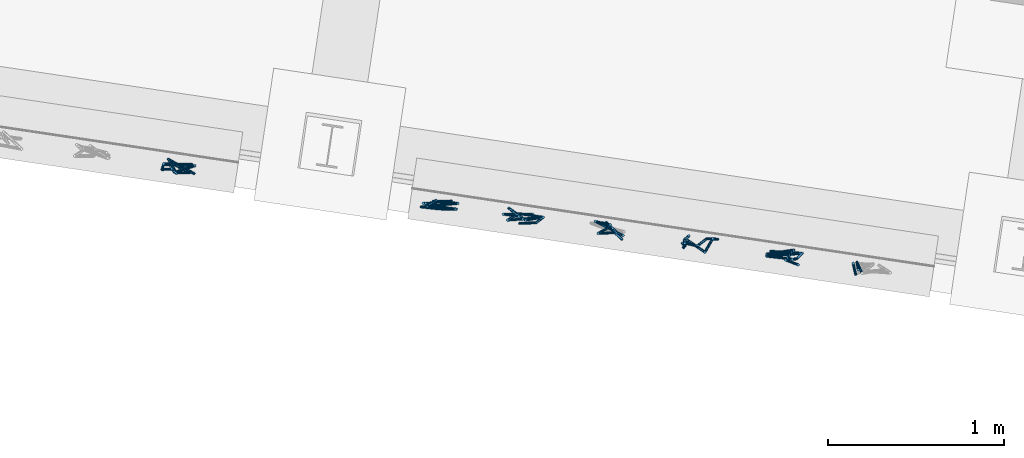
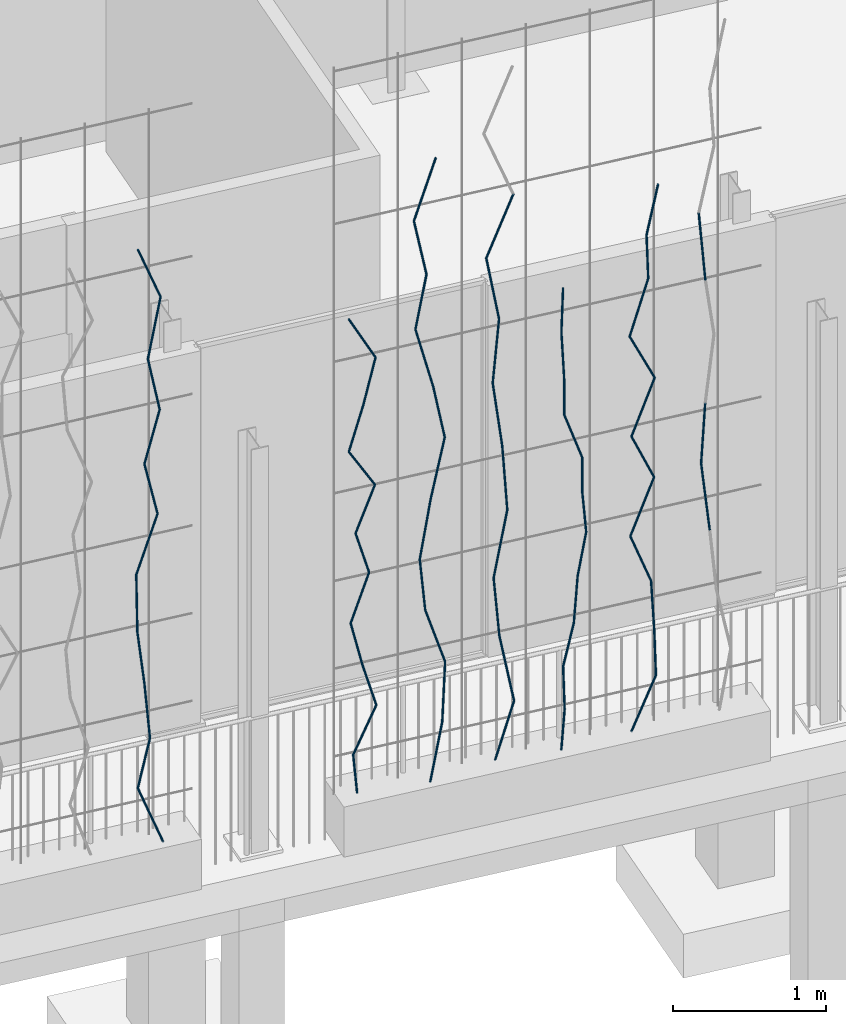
# One storey, part 122 of 143: 67 members, 1 element without a shape of its own.
"""IFC4 building model written with IfcOpenShell, lengths in metres."""

from ifc_helpers import new_model, si_unit, direction, frame, origin_with_axes, place, context, subcontext, project, spatial, circle, extrude, material, material_profile, profile_set, profile_usage, type_object, element, aggregate, save


model = new_model("IFC4")

# Units and contexts
model_context = context("Model", 3, precision=1e-05, world=origin_with_axes(), true_north=direction((0.0, 1.0)))
body_context = subcontext(model_context, "Body", "Model", "MODEL_VIEW")
ifc_project = project(units=[si_unit("VOLUMEUNIT", "CUBIC_METRE"), si_unit("LENGTHUNIT", "METRE"), si_unit("AREAUNIT", "SQUARE_METRE")], contexts=[model_context])

# Site, building, storey
site_placement = place(None, origin_with_axes())
site = spatial("IfcSite", under=ifc_project, at=site_placement, Name="Lares · Rua das Mercês · artigo 4771")
building_placement = place(site_placement, frame((15.0, 9.7, 15.8), z_axis=(0.0, 0.0, 1.0), x_axis=(0.989015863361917, -0.147809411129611, 0.0)))
building = spatial("IfcBuilding", under=site, at=building_placement, Name="Casa Sobreposta")
storey_placement = place(building_placement, origin_with_axes())
storey = spatial("IfcBuildingStorey", under=building, at=storey_placement, Name="00 · Habitação e estacionamento", Elevation=15.8)

# Assembly, members
assembly_placement = place(storey_placement, origin_with_axes())
assembly = element("IfcElementAssembly", 1, at=assembly_placement, inside=storey, Name="Fachada sul e pátio · estrutura e trepadeiras", ObjectType="LIVING_SHADE_TRELLIS", PredefinedType="USERDEFINED")
ifc_material = material(Name="Ramos de trepadeiras", Category="wood")
ifc_material_profile = material_profile(ifc_material, circle(Radius=0.0075))
ifc_profile_set = profile_set([ifc_material_profile], Name="D0.015")
ifc_profile_usage_1 = profile_usage(ifc_profile_set)
member_type = type_object("IfcMemberType", Name="D0.015 / vine_wood", PredefinedType="NOTDEFINED", material=ifc_profile_set)
member_1_placement = place(assembly_placement, frame((15.2607594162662, -1.7095147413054, 0.35), z_axis=(-0.337365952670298, 0.127105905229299, 0.932753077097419), x_axis=(0.352566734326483, 0.935786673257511, 0.0)))
member_1 = element("IfcMember", 2, at=member_1_placement, type_object=member_type, material=ifc_profile_usage_1, Name="Trepadeiras · ramo", context=body_context, shape_type="SweptSolid", body=[
    extrude(circle(Radius=0.0075), origin_with_axes(), (0.0, 0.0, 1.0), 0.463665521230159),
])
ifc_profile_usage_2 = profile_usage(ifc_profile_set)
member_2_placement = place(assembly_placement, frame((15.104334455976, -1.65058011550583, 0.782485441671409), z_axis=(0.128975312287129, -0.164258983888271, 0.977949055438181), x_axis=(-0.786516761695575, -0.617568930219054, 0.0)))
member_2 = element("IfcMember", 3, at=member_2_placement, type_object=member_type, material=ifc_profile_usage_2, Name="Trepadeiras · ramo", context=body_context, shape_type="SweptSolid", body=[
    extrude(circle(Radius=0.0075), origin_with_axes(), (0.0, 0.0, 1.0), 0.44223718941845),
])
ifc_profile_usage_3 = profile_usage(ifc_profile_set)
member_3_placement = place(assembly_placement, frame((15.1613721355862, -1.72322154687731, 1.21497088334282), z_axis=(-0.0719495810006, 0.0477886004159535, 0.996262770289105), x_axis=(0.553274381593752, 0.832999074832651, 0.0)))
member_3 = element("IfcMember", 4, at=member_3_placement, type_object=member_type, material=ifc_profile_usage_3, Name="Trepadeiras · ramo", context=body_context, shape_type="SweptSolid", body=[
    extrude(circle(Radius=0.0075), origin_with_axes(), (0.0, 0.0, 1.0), 0.4341078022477),
])
ifc_profile_usage_4 = profile_usage(ifc_profile_set)
member_4_placement = place(assembly_placement, frame((15.1301382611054, -1.70247614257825, 1.64745632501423), z_axis=(-0.123832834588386, -0.0263375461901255, 0.991953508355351), x_axis=(-0.208033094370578, 0.978121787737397, 0.0)))
member_4 = element("IfcMember", 5, at=member_4_placement, type_object=member_type, material=ifc_profile_usage_4, Name="Trepadeiras · ramo", context=body_context, shape_type="SweptSolid", body=[
    extrude(circle(Radius=0.0075), origin_with_axes(), (0.0, 0.0, 1.0), 0.435993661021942),
])
ifc_profile_usage_5 = profile_usage(ifc_profile_set)
member_5_placement = place(assembly_placement, frame((15.0761479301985, -1.71395914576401, 2.07994176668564), z_axis=(0.0132062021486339, 0.0761319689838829, 0.997010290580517), x_axis=(0.985286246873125, -0.170912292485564, 0.0)))
member_5 = element("IfcMember", 6, at=member_5_placement, type_object=member_type, material=ifc_profile_usage_5, Name="Trepadeiras · ramo", context=body_context, shape_type="SweptSolid", body=[
    extrude(circle(Radius=0.0075), origin_with_axes(), (0.0, 0.0, 1.0), 0.433782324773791),
])
ifc_profile_usage_6 = profile_usage(ifc_profile_set)
member_6_placement = place(assembly_placement, frame((15.0818765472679, -1.68093444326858, 2.51242720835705), z_axis=(0.342762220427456, 0.0461039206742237, 0.93829019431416), x_axis=(0.133306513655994, -0.991074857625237, 0.0)))
member_6 = element("IfcMember", 7, at=member_6_placement, type_object=member_type, material=ifc_profile_usage_6, Name="Trepadeiras · ramo", context=body_context, shape_type="SweptSolid", body=[
    extrude(circle(Radius=0.0075), origin_with_axes(), (0.0, 0.0, 1.0), 0.460929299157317),
])
ifc_profile_usage_7 = profile_usage(ifc_profile_set)
member_7_placement = place(assembly_placement, frame((15.2398656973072, -1.6596837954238, 2.94491265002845), z_axis=(-0.222915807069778, -0.036643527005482, 0.974148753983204), x_axis=(-0.162205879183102, 0.986756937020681, 0.0)))
member_7 = element("IfcMember", 8, at=member_7_placement, type_object=member_type, material=ifc_profile_usage_7, Name="Trepadeiras · ramo", context=body_context, shape_type="SweptSolid", body=[
    extrude(circle(Radius=0.0075), origin_with_axes(), (0.0, 0.0, 1.0), 0.443962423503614),
])
ifc_profile_usage_8 = profile_usage(ifc_profile_set)
member_8_placement = place(assembly_placement, frame((15.1408994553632, -1.67595214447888, 3.37739809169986), z_axis=(0.213066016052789, -0.0735330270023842, 0.974266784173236), x_axis=(-0.326236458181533, -0.945288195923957, 0.0)))
member_8 = element("IfcMember", 9, at=member_8_placement, type_object=member_type, material=ifc_profile_usage_8, Name="Trepadeiras · ramo", context=body_context, shape_type="SweptSolid", body=[
    extrude(circle(Radius=0.0075), origin_with_axes(), (0.0, 0.0, 1.0), 0.443908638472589),
])
ifc_profile_usage_9 = profile_usage(ifc_profile_set)
member_9_placement = place(assembly_placement, frame((15.235481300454, -1.70859409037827, 3.80988353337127), z_axis=(-0.19816638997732, -0.0243245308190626, 0.979866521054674), x_axis=(-0.1218336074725, 0.992550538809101, 0.0)))
member_9 = element("IfcMember", 10, at=member_9_placement, type_object=member_type, material=ifc_profile_usage_9, Name="Trepadeiras · ramo", context=body_context, shape_type="SweptSolid", body=[
    extrude(circle(Radius=0.0075), origin_with_axes(), (0.0, 0.0, 1.0), 0.441371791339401),
])
ifc_profile_usage_10 = profile_usage(ifc_profile_set)
member_10_placement = place(assembly_placement, frame((15.1480162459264, -1.71933025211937, 4.24236897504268), z_axis=(0.246754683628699, 0.121737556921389, 0.961401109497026), x_axis=(0.44243957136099, -0.896798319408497, 0.0)))
member_10 = element("IfcMember", 11, at=member_10_placement, type_object=member_type, material=ifc_profile_usage_10, Name="Trepadeiras · ramo", context=body_context, shape_type="SweptSolid", body=[
    extrude(circle(Radius=0.0075), origin_with_axes(), (0.0, 0.0, 1.0), 0.449849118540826),
])
ifc_profile_usage_11 = profile_usage(ifc_profile_set)
member_11_placement = place(assembly_placement, frame((15.2590186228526, -1.66456671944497, 4.67485441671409), z_axis=(-0.360268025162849, -0.0428537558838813, 0.931863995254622), x_axis=(-0.118116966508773, 0.992999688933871, 0.0)))
member_11 = element("IfcMember", 12, at=member_11_placement, type_object=member_type, material=ifc_profile_usage_11, Name="Trepadeiras · ramo", context=body_context, shape_type="SweptSolid", body=[
    extrude(circle(Radius=0.0075), origin_with_axes(), (0.0, 0.0, 1.0), 0.464107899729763),
])
ifc_profile_usage_12 = profile_usage(ifc_profile_set)
member_12_placement = place(assembly_placement, frame((16.6437823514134, -1.65744029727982, 0.35), z_axis=(-0.125335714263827, -0.117489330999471, 0.985133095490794), x_axis=(-0.683901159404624, 0.729574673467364, 0.0)))
member_12 = element("IfcMember", 13, at=member_12_placement, type_object=member_type, material=ifc_profile_usage_12, Name="Trepadeiras · ramo", context=body_context, shape_type="SweptSolid", body=[
    extrude(circle(Radius=0.0075), origin_with_axes(), (0.0, 0.0, 1.0), 0.352596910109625),
])
ifc_profile_usage_13 = profile_usage(ifc_profile_set)
member_13_placement = place(assembly_placement, frame((16.5995893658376, -1.69886667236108, 0.697354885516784), z_axis=(0.431298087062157, 0.025974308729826, 0.901835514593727), x_axis=(0.0601146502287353, -0.998191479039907, 3.62071145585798e-18)))
member_13 = element("IfcMember", 14, at=member_13_placement, type_object=member_type, material=ifc_profile_usage_13, Name="Trepadeiras · ramo", context=body_context, shape_type="SweptSolid", body=[
    extrude(circle(Radius=0.0075), origin_with_axes(), (0.0, 0.0, 1.0), 0.385164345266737),
])
ifc_profile_usage_14 = profile_usage(ifc_profile_set)
member_14_placement = place(assembly_placement, frame((16.7657100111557, -1.6888622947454, 1.04470977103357), z_axis=(-0.272189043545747, -0.00629168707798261, 0.962223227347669), x_axis=(-0.0231089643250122, 0.999732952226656, -7.66354077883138e-19)))
member_14 = element("IfcMember", 15, at=member_14_placement, type_object=member_type, material=ifc_profile_usage_14, Name="Trepadeiras · ramo", context=body_context, shape_type="SweptSolid", body=[
    extrude(circle(Radius=0.0075), origin_with_axes(), (0.0, 0.0, 1.0), 0.360991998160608),
])
ifc_profile_usage_15 = profile_usage(ifc_profile_set)
member_15_placement = place(assembly_placement, frame((16.6674519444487, -1.69113354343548, 1.39206465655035), z_axis=(-0.223345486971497, 0.0225816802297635, 0.974477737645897), x_axis=(0.100593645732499, 0.994927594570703, 0.0)))
member_15 = element("IfcMember", 16, at=member_15_placement, type_object=member_type, material=ifc_profile_usage_15, Name="Trepadeiras · ramo", context=body_context, shape_type="SweptSolid", body=[
    extrude(circle(Radius=0.0075), origin_with_axes(), (0.0, 0.0, 1.0), 0.356452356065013),
])
ifc_profile_usage_16 = profile_usage(ifc_profile_set)
member_16_placement = place(assembly_placement, frame((16.5878399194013, -1.68308425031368, 1.73941954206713), z_axis=(0.380513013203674, 0.0935831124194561, 0.920028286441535), x_axis=(0.23882262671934, -0.971063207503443, 0.0)))
member_16 = element("IfcMember", 17, at=member_16_placement, type_object=member_type, material=ifc_profile_usage_16, Name="Trepadeiras · ramo", context=body_context, shape_type="SweptSolid", body=[
    extrude(circle(Radius=0.0075), origin_with_axes(), (0.0, 0.0, 1.0), 0.377548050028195),
])
ifc_profile_usage_17 = profile_usage(ifc_profile_set)
member_17_placement = place(assembly_placement, frame((16.7315018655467, -1.64775212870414, 2.08677442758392), z_axis=(-0.281212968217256, -0.0458064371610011, 0.958551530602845), x_axis=(-0.160769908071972, 0.986991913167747, 0.0)))
member_17 = element("IfcMember", 18, at=member_17_placement, type_object=member_type, material=ifc_profile_usage_17, Name="Trepadeiras · ramo", context=body_context, shape_type="SweptSolid", body=[
    extrude(circle(Radius=0.0075), origin_with_axes(), (0.0, 0.0, 1.0), 0.362374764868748),
])
ifc_profile_usage_18 = profile_usage(ifc_profile_set)
member_18_placement = place(assembly_placement, frame((16.6295973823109, -1.66435122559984, 2.4341293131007), z_axis=(0.373944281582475, 0.0247671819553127, 0.927120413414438), x_axis=(0.0660874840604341, -0.997813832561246, 0.0)))
member_18 = element("IfcMember", 19, at=member_18_placement, type_object=member_type, material=ifc_profile_usage_18, Name="Trepadeiras · ramo", context=body_context, shape_type="SweptSolid", body=[
    extrude(circle(Radius=0.0075), origin_with_axes(), (0.0, 0.0, 1.0), 0.374659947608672),
])
ifc_profile_usage_19 = profile_usage(ifc_profile_set)
member_19_placement = place(assembly_placement, frame((16.7696993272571, -1.65507195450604, 2.78148419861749), z_axis=(-0.501884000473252, -0.125757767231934, 0.855743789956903), x_axis=(-0.243057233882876, 0.970011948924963, 0.0)))
member_19 = element("IfcMember", 20, at=member_19_placement, type_object=member_type, material=ifc_profile_usage_19, Name="Trepadeiras · ramo", context=body_context, shape_type="SweptSolid", body=[
    extrude(circle(Radius=0.0075), origin_with_axes(), (0.0, 0.0, 1.0), 0.40590991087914),
])
ifc_profile_usage_20 = profile_usage(ifc_profile_set)
member_20_placement = place(assembly_placement, frame((16.5659796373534, -1.70611827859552, 3.12883908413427), z_axis=(0.28716983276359, 0.011629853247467, 0.9578090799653), x_axis=(0.040465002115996, -0.999180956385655, 0.0)))
member_20 = element("IfcMember", 21, at=member_20_placement, type_object=member_type, material=ifc_profile_usage_20, Name="Trepadeiras · ramo", context=body_context, shape_type="SweptSolid", body=[
    extrude(circle(Radius=0.0075), origin_with_axes(), (0.0, 0.0, 1.0), 0.362655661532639),
])
ifc_profile_usage_21 = profile_usage(ifc_profile_set)
member_21_placement = place(assembly_placement, frame((16.6701234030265, -1.70190064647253, 3.47619396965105), z_axis=(0.249343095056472, 0.0291380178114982, 0.967976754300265), x_axis=(0.116069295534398, -0.993241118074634, 0.0)))
member_21 = element("IfcMember", 22, at=member_21_placement, type_object=member_type, material=ifc_profile_usage_21, Name="Trepadeiras · ramo", context=body_context, shape_type="SweptSolid", body=[
    extrude(circle(Radius=0.0075), origin_with_axes(), (0.0, 0.0, 1.0), 0.358846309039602),
])
ifc_profile_usage_22 = profile_usage(ifc_profile_set)
member_22_placement = place(assembly_placement, frame((16.759599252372, -1.69144457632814, 3.82354885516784), z_axis=(-0.470201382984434, 0.0215530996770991, 0.882295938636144), x_axis=(0.0457899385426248, 0.998951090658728, 0.0)))
member_22 = element("IfcMember", 23, at=member_22_placement, type_object=member_type, material=ifc_profile_usage_22, Name="Trepadeiras · ramo", context=body_context, shape_type="SweptSolid", body=[
    extrude(circle(Radius=0.0075), origin_with_axes(), (0.0, 0.0, 1.0), 0.393694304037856),
])
ifc_profile_usage_23 = profile_usage(ifc_profile_set)
member_23_placement = place(assembly_placement, frame((17.1334743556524, -1.71608831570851, 0.35), z_axis=(0.201113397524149, 0.0382970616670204, 0.978819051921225), x_axis=(0.187063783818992, -0.982347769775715, 0.0)))
member_23 = element("IfcMember", 24, at=member_23_placement, type_object=member_type, material=ifc_profile_usage_23, Name="Trepadeiras · ramo", context=body_context, shape_type="SweptSolid", body=[
    extrude(circle(Radius=0.0075), origin_with_axes(), (0.0, 0.0, 1.0), 0.457949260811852),
])
ifc_profile_usage_24 = profile_usage(ifc_profile_set)
member_24_placement = place(assembly_placement, frame((17.2255740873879, -1.69855020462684, 0.798249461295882), z_axis=(0.0767993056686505, 0.0814555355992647, 0.993713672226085), x_axis=(0.727596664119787, -0.68600517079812, 0.0)))
member_24 = element("IfcMember", 25, at=member_24_placement, type_object=member_type, material=ifc_profile_usage_24, Name="Trepadeiras · ramo", context=body_context, shape_type="SweptSolid", body=[
    extrude(circle(Radius=0.0075), origin_with_axes(), (0.0, 0.0, 1.0), 0.451085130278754),
])
ifc_profile_usage_25 = profile_usage(ifc_profile_set)
member_25_placement = place(assembly_placement, frame((17.2602171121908, -1.66180682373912, 1.24649892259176), z_axis=(-0.298062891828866, -0.000194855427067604, 0.954546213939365), x_axis=(-0.00065373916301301, 0.999999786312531, 0.0)))
member_25 = element("IfcMember", 26, at=member_25_placement, type_object=member_type, material=ifc_profile_usage_25, Name="Trepadeiras · ramo", context=body_context, shape_type="SweptSolid", body=[
    extrude(circle(Radius=0.0075), origin_with_axes(), (0.0, 0.0, 1.0), 0.469594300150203),
])
ifc_profile_usage_26 = profile_usage(ifc_profile_set)
member_26_placement = place(assembly_placement, frame((17.1202484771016, -1.66189832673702, 1.69474838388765), z_axis=(-0.123936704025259, -0.0998765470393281, 0.987250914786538), x_axis=(-0.627476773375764, 0.778635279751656, 0.0)))
member_26 = element("IfcMember", 27, at=member_26_placement, type_object=member_type, material=ifc_profile_usage_26, Name="Trepadeiras · ramo", context=body_context, shape_type="SweptSolid", body=[
    extrude(circle(Radius=0.0075), origin_with_axes(), (0.0, 0.0, 1.0), 0.45403803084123),
])
ifc_profile_usage_27 = profile_usage(ifc_profile_set)
member_27_placement = place(assembly_placement, frame((17.0639765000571, -1.70724607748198, 2.14299784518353), z_axis=(0.184612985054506, 0.0413662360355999, 0.981940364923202), x_axis=(0.218648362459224, -0.975803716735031, 0.0)))
member_27 = element("IfcMember", 28, at=member_27_placement, type_object=member_type, material=ifc_profile_usage_27, Name="Trepadeiras · ramo", context=body_context, shape_type="SweptSolid", body=[
    extrude(circle(Radius=0.0075), origin_with_axes(), (0.0, 0.0, 1.0), 0.456493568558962),
])
ifc_profile_usage_28 = profile_usage(ifc_profile_set)
member_28_placement = place(assembly_placement, frame((17.1482511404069, -1.68836265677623, 2.59124730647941), z_axis=(0.236385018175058, 0.0561572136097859, 0.970035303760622), x_axis=(0.231133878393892, -0.972921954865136, 0.0)))
member_28 = element("IfcMember", 29, at=member_28_placement, type_object=member_type, material=ifc_profile_usage_28, Name="Trepadeiras · ramo", context=body_context, shape_type="SweptSolid", body=[
    extrude(circle(Radius=0.0075), origin_with_axes(), (0.0, 0.0, 1.0), 0.462096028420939),
])
ifc_profile_usage_29 = profile_usage(ifc_profile_set)
member_29_placement = place(assembly_placement, frame((17.2574837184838, -1.66241263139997, 3.03949676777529), z_axis=(-0.203403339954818, -0.0669733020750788, 0.976801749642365), x_axis=(-0.31274655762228, 0.949836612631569, 0.0)))
member_29 = element("IfcMember", 30, at=member_29_placement, type_object=member_type, material=ifc_profile_usage_29, Name="Trepadeiras · ramo", context=body_context, shape_type="SweptSolid", body=[
    extrude(circle(Radius=0.0075), origin_with_axes(), (0.0, 0.0, 1.0), 0.458895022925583),
])
ifc_profile_usage_30 = profile_usage(ifc_profile_set)
member_30_placement = place(assembly_placement, frame((17.1641429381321, -1.69314634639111, 3.48774622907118), z_axis=(-0.224295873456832, 0.115463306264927, 0.967656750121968), x_axis=(0.457696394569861, 0.889108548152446, 0.0)))
member_30 = element("IfcMember", 31, at=member_30_placement, type_object=member_type, material=ifc_profile_usage_30, Name="Trepadeiras · ramo", context=body_context, shape_type="SweptSolid", body=[
    extrude(circle(Radius=0.0075), origin_with_axes(), (0.0, 0.0, 1.0), 0.463231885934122),
])
ifc_profile_usage_31 = profile_usage(ifc_profile_set)
member_31_placement = place(assembly_placement, frame((17.0602419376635, -1.63966006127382, 3.93599569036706), z_axis=(0.138490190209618, -0.082918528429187, 0.986886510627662), x_axis=(-0.513695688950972, -0.857972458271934, 0.0)))
member_31 = element("IfcMember", 32, at=member_31_placement, type_object=member_type, material=ifc_profile_usage_31, Name="Trepadeiras · ramo", context=body_context, shape_type="SweptSolid", body=[
    extrude(circle(Radius=0.0075), origin_with_axes(), (0.0, 0.0, 1.0), 0.454205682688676),
])
ifc_profile_usage_32 = profile_usage(ifc_profile_set)
member_32_placement = place(assembly_placement, frame((17.1231449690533, -1.67732212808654, 4.38424515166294), z_axis=(-0.193845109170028, -0.000843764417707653, 0.9810317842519), x_axis=(-0.00435273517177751, 0.999990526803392, 0.0)))
member_32 = element("IfcMember", 33, at=member_32_placement, type_object=member_type, material=ifc_profile_usage_32, Name="Trepadeiras · ramo", context=body_context, shape_type="SweptSolid", body=[
    extrude(circle(Radius=0.0075), origin_with_axes(), (0.0, 0.0, 1.0), 0.456916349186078),
])
ifc_profile_usage_33 = profile_usage(ifc_profile_set)
member_33_placement = place(assembly_placement, frame((17.0345739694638, -1.67770765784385, 4.83249461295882), z_axis=(0.341901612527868, 0.0500748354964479, 0.938400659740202), x_axis=(0.144913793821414, -0.989444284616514, 0.0)))
member_33 = element("IfcMember", 34, at=member_33_placement, type_object=member_type, material=ifc_profile_usage_33, Name="Trepadeiras · ramo", context=body_context, shape_type="SweptSolid", body=[
    extrude(circle(Radius=0.0075), origin_with_axes(), (0.0, 0.0, 1.0), 0.477673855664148),
])
ifc_profile_usage_34 = profile_usage(ifc_profile_set)
member_34_placement = place(assembly_placement, frame((17.6199550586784, -1.63810039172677, 0.35), z_axis=(0.196294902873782, -0.15611312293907, 0.968037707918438), x_axis=(-0.622448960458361, -0.782660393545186, 0.0)))
member_34 = element("IfcMember", 35, at=member_34_placement, type_object=member_type, material=ifc_profile_usage_34, Name="Trepadeiras · ramo", context=body_context, shape_type="SweptSolid", body=[
    extrude(circle(Radius=0.0075), origin_with_axes(), (0.0, 0.0, 1.0), 0.520207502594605),
])
ifc_profile_usage_35 = profile_usage(ifc_profile_set)
member_35_placement = place(assembly_placement, frame((17.7220691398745, -1.71931160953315, 0.853580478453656), z_axis=(-0.158176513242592, 0.109824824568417, 0.981284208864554), x_axis=(0.570325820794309, 0.821418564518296, 0.0)))
member_35 = element("IfcMember", 36, at=member_35_placement, type_object=member_type, material=ifc_profile_usage_35, Name="Trepadeiras · ramo", context=body_context, shape_type="SweptSolid", body=[
    extrude(circle(Radius=0.0075), origin_with_axes(), (0.0, 0.0, 1.0), 0.513185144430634),
])
ifc_profile_usage_36 = profile_usage(ifc_profile_set)
member_36_placement = place(assembly_placement, frame((17.6408953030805, -1.66295114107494, 1.35716095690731), z_axis=(-0.112928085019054, -0.0854996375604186, 0.989917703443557), x_axis=(-0.603624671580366, 0.797268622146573, 0.0)))
member_36 = element("IfcMember", 37, at=member_36_placement, type_object=member_type, material=ifc_profile_usage_36, Name="Trepadeiras · ramo", context=body_context, shape_type="SweptSolid", body=[
    extrude(circle(Radius=0.0075), origin_with_axes(), (0.0, 0.0, 1.0), 0.508709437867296),
])
ifc_profile_usage_37 = profile_usage(ifc_profile_set)
member_37_placement = place(assembly_placement, frame((17.5834477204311, -1.70644561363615, 1.86074143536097), z_axis=(0.202648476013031, 0.0401214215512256, 0.978429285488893), x_axis=(0.19421545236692, -0.980958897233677, 0.0)))
member_37 = element("IfcMember", 38, at=member_37_placement, type_object=member_type, material=ifc_profile_usage_37, Name="Trepadeiras · ramo", context=body_context, shape_type="SweptSolid", body=[
    extrude(circle(Radius=0.0075), origin_with_axes(), (0.0, 0.0, 1.0), 0.514682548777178),
])
ifc_profile_usage_38 = profile_usage(ifc_profile_set)
member_38_placement = place(assembly_placement, frame((17.6877473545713, -1.68579581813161, 2.36432191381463), z_axis=(-0.0542606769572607, 0.0400448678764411, 0.997723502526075), x_axis=(0.59380737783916, 0.804607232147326, 0.0)))
member_38 = element("IfcMember", 39, at=member_38_placement, type_object=member_type, material=ifc_profile_usage_38, Name="Trepadeiras · ramo", context=body_context, shape_type="SweptSolid", body=[
    extrude(circle(Radius=0.0075), origin_with_axes(), (0.0, 0.0, 1.0), 0.50472949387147),
])
ifc_profile_usage_39 = profile_usage(ifc_profile_set)
member_39_placement = place(assembly_placement, frame((17.6603603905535, -1.66558399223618, 2.86790239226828), z_axis=(-0.115554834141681, 0.0430327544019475, 0.992368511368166), x_axis=(0.348987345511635, 0.937127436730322, 0.0)))
member_39 = element("IfcMember", 40, at=member_39_placement, type_object=member_type, material=ifc_profile_usage_39, Name="Trepadeiras · ramo", context=body_context, shape_type="SweptSolid", body=[
    extrude(circle(Radius=0.0075), origin_with_axes(), (0.0, 0.0, 1.0), 0.50745310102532),
])
ifc_profile_usage_40 = profile_usage(ifc_profile_set)
member_40_placement = place(assembly_placement, frame((17.6017217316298, -1.64374688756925, 3.37148287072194), z_axis=(0.084928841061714, -0.00928811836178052, 0.996343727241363), x_axis=(-0.108715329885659, -0.994072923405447, 0.0)))
member_40 = element("IfcMember", 41, at=member_40_placement, type_object=member_type, material=ifc_profile_usage_40, Name="Trepadeiras · ramo", context=body_context, shape_type="SweptSolid", body=[
    extrude(circle(Radius=0.0075), origin_with_axes(), (0.0, 0.0, 1.0), 0.505428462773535),
])
ifc_profile_usage_41 = profile_usage(ifc_profile_set)
member_41_placement = place(assembly_placement, frame((17.6446471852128, -1.6484413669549, 3.87506334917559), z_axis=(-0.170887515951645, 0.012668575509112, 0.985209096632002), x_axis=(0.0739311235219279, 0.997263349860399, 0.0)))
member_41 = element("IfcMember", 42, at=member_41_placement, type_object=member_type, material=ifc_profile_usage_41, Name="Trepadeiras · ramo", context=body_context, shape_type="SweptSolid", body=[
    extrude(circle(Radius=0.0075), origin_with_axes(), (0.0, 0.0, 1.0), 0.511140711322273),
])
ifc_profile_usage_42 = profile_usage(ifc_profile_set)
member_42_placement = place(assembly_placement, frame((17.5572996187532, -1.64196594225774, 4.37864382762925), z_axis=(0.315298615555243, -0.102581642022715, 0.94343192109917), x_axis=(-0.309385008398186, -0.950936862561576, 0.0)))
member_42 = element("IfcMember", 43, at=member_42_placement, type_object=member_type, material=ifc_profile_usage_42, Name="Trepadeiras · ramo", context=body_context, shape_type="SweptSolid", body=[
    extrude(circle(Radius=0.0075), origin_with_axes(), (0.0, 0.0, 1.0), 0.533775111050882),
])
ifc_profile_usage_43 = profile_usage(ifc_profile_set)
member_43_placement = place(assembly_placement, frame((18.0649791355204, -1.69076987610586, 0.35), z_axis=(0.0584111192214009, -0.0341001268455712, 0.997710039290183), x_axis=(-0.504168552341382, -0.863605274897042, 0.0)))
member_43 = element("IfcMember", 44, at=member_43_placement, type_object=member_type, material=ifc_profile_usage_43, Name="Trepadeiras · ramo", context=body_context, shape_type="SweptSolid", body=[
    extrude(circle(Radius=0.0075), origin_with_axes(), (0.0, 0.0, 1.0), 0.333022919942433),
])
ifc_profile_usage_44 = profile_usage(ifc_profile_set)
member_44_placement = place(assembly_placement, frame((18.0844313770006, -1.70212599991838, 0.682260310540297), z_axis=(-0.0163476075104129, 0.0411831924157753, 0.999017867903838), x_axis=(0.999866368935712, 0.000673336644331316, 0.0163337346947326)))
member_44 = element("IfcMember", 45, at=member_44_placement, type_object=member_type, material=ifc_profile_usage_44, Name="Trepadeiras · ramo", context=body_context, shape_type="SweptSolid", body=[
    extrude(circle(Radius=0.0075), origin_with_axes(), (0.0, 0.0, 1.0), 0.332586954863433),
])
ifc_profile_usage_45 = profile_usage(ifc_profile_set)
member_45_placement = place(assembly_placement, frame((18.0789943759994, -1.68842900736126, 1.01452062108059), z_axis=(0.214846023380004, -0.0161481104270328, 0.976514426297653), x_axis=(-0.0749499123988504, -0.997187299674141, 0.0)))
member_45 = element("IfcMember", 46, at=member_45_placement, type_object=member_type, material=ifc_profile_usage_45, Name="Trepadeiras · ramo", context=body_context, shape_type="SweptSolid", body=[
    extrude(circle(Radius=0.0075), origin_with_axes(), (0.0, 0.0, 1.0), 0.340251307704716),
])
ifc_profile_usage_46 = profile_usage(ifc_profile_set)
member_46_placement = place(assembly_placement, frame((18.1520960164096, -1.69392342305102, 1.34678093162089), z_axis=(0.136806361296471, 0.144435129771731, 0.980011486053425), x_axis=(0.726020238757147, -0.687673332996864, 0.0)))
member_46 = element("IfcMember", 47, at=member_46_placement, type_object=member_type, material=ifc_profile_usage_46, Name="Trepadeiras · ramo", context=body_context, shape_type="SweptSolid", body=[
    extrude(circle(Radius=0.0075), origin_with_axes(), (0.0, 0.0, 1.0), 0.339037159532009),
])
ifc_profile_usage_47 = profile_usage(ifc_profile_set)
member_47_placement = place(assembly_placement, frame((18.1984784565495, -1.64495454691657, 1.67904124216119), z_axis=(0.184848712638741, 0.0180286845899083, 0.982601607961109), x_axis=(0.0970715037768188, -0.995277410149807, 0.0)))
member_47 = element("IfcMember", 48, at=member_47_placement, type_object=member_type, material=ifc_profile_usage_47, Name="Trepadeiras · ramo", context=body_context, shape_type="SweptSolid", body=[
    extrude(circle(Radius=0.0075), origin_with_axes(), (0.0, 0.0, 1.0), 0.338143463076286),
])
ifc_profile_usage_48 = profile_usage(ifc_profile_set)
member_48_placement = place(assembly_placement, frame((18.2609838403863, -1.63885826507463, 2.01130155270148), z_axis=(-0.0863639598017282, -0.00316984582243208, 0.996258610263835), x_axis=(-0.0366786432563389, 0.999327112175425, 0.0)))
member_48 = element("IfcMember", 49, at=member_48_placement, type_object=member_type, material=ifc_profile_usage_48, Name="Trepadeiras · ramo", context=body_context, shape_type="SweptSolid", body=[
    extrude(circle(Radius=0.0075), origin_with_axes(), (0.0, 0.0, 1.0), 0.333508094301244),
])
ifc_profile_usage_49 = profile_usage(ifc_profile_set)
member_49_placement = place(assembly_placement, frame((18.2321807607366, -1.6399154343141, 2.34356186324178), z_axis=(-0.0938842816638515, -0.238817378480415, 0.966515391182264), x_axis=(-0.930667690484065, 0.365865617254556, 0.0)))
member_49 = element("IfcMember", 50, at=member_49_placement, type_object=member_type, material=ifc_profile_usage_49, Name="Trepadeiras · ramo", context=body_context, shape_type="SweptSolid", body=[
    extrude(circle(Radius=0.0075), origin_with_axes(), (0.0, 0.0, 1.0), 0.343771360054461),
])
ifc_profile_usage_50 = profile_usage(ifc_profile_set)
member_50_placement = place(assembly_placement, frame((18.1999060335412, -1.72201400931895, 2.67582217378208), z_axis=(-0.29939025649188, 0.145103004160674, 0.943032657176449), x_axis=(0.436137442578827, 0.899880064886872, 0.0)))
member_50 = element("IfcMember", 51, at=member_50_placement, type_object=member_type, material=ifc_profile_usage_50, Name="Trepadeiras · ramo", context=body_context, shape_type="SweptSolid", body=[
    extrude(circle(Radius=0.0075), origin_with_axes(), (0.0, 0.0, 1.0), 0.35233171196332),
])
ifc_profile_usage_51 = profile_usage(ifc_profile_set)
member_51_placement = place(assembly_placement, frame((18.0944213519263, -1.670889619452, 3.00808248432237), z_axis=(-0.0559630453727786, -0.131390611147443, 0.989749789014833), x_axis=(-0.920023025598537, 0.391864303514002, 6.01118427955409e-18)))
member_51 = element("IfcMember", 52, at=member_51_placement, type_object=member_type, material=ifc_profile_usage_51, Name="Trepadeiras · ramo", context=body_context, shape_type="SweptSolid", body=[
    extrude(circle(Radius=0.0075), origin_with_axes(), (0.0, 0.0, 1.0), 0.335701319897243),
])
ifc_profile_usage_52 = profile_usage(ifc_profile_set)
member_52_placement = place(assembly_placement, frame((18.0756344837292, -1.7149976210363, 3.34034279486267), z_axis=(-0.00241143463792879, 0.137675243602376, 0.990474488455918), x_axis=(0.999846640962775, 0.0175126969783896, 0.0)))
member_52 = element("IfcMember", 53, at=member_52_placement, type_object=member_type, material=ifc_profile_usage_52, Name="Trepadeiras · ramo", context=body_context, shape_type="SweptSolid", body=[
    extrude(circle(Radius=0.0075), origin_with_axes(), (0.0, 0.0, 1.0), 0.335455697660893),
])
ifc_profile_usage_53 = profile_usage(ifc_profile_set)
member_53_placement = place(assembly_placement, frame((18.0748255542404, -1.66881367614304, 3.67260310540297), z_axis=(0.0639243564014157, 0.0734451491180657, 0.995248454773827), x_axis=(0.75430535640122, -0.656523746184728, 0.0)))
member_53 = element("IfcMember", 54, at=member_53_placement, type_object=member_type, material=ifc_profile_usage_53, Name="Trepadeiras · ramo", context=body_context, shape_type="SweptSolid", body=[
    extrude(circle(Radius=0.0075), origin_with_axes(), (0.0, 0.0, 1.0), 0.333846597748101),
])
ifc_profile_usage_54 = profile_usage(ifc_profile_set)
member_54_placement = place(assembly_placement, frame((18.5680663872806, -1.66207793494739, 0.35), z_axis=(0.412408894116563, 0.0354071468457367, 0.910310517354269), x_axis=(0.0855397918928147, -0.996334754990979, 0.0)))
member_54 = element("IfcMember", 55, at=member_54_placement, type_object=member_type, material=ifc_profile_usage_54, Name="Trepadeiras · ramo", context=body_context, shape_type="SweptSolid", body=[
    extrude(circle(Radius=0.0075), origin_with_axes(), (0.0, 0.0, 1.0), 0.435767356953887),
])
ifc_profile_usage_55 = profile_usage(ifc_profile_set)
member_55_placement = place(assembly_placement, frame((18.747780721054, -1.64664865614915, 0.746683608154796), z_axis=(-0.065470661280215, -0.0906571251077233, 0.99372776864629), x_axis=(-0.810695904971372, 0.585467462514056, 0.0)))
member_55 = element("IfcMember", 56, at=member_55_placement, type_object=member_type, material=ifc_profile_usage_55, Name="Trepadeiras · ramo", context=body_context, shape_type="SweptSolid", body=[
    extrude(circle(Radius=0.0075), origin_with_axes(), (0.0, 0.0, 1.0), 0.399187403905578),
])
ifc_profile_usage_56 = profile_usage(ifc_profile_set)
member_56_placement = place(assembly_placement, frame((18.7216456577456, -1.68283783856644, 1.14336721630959), z_axis=(-0.0606019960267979, -0.0131741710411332, 0.998075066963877), x_axis=(-0.212426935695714, 0.977176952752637, 0.0)))
member_56 = element("IfcMember", 57, at=member_56_placement, type_object=member_type, material=ifc_profile_usage_56, Name="Trepadeiras · ramo", context=body_context, shape_type="SweptSolid", body=[
    extrude(circle(Radius=0.0075), origin_with_axes(), (0.0, 0.0, 1.0), 0.397448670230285),
])
ifc_profile_usage_57 = profile_usage(ifc_profile_set)
member_57_placement = place(assembly_placement, frame((18.6975594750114, -1.68807389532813, 1.54005082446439), z_axis=(-0.349046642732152, -0.0107278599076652, 0.937043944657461), x_axis=(-0.0307202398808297, 0.999528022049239, 0.0)))
member_57 = element("IfcMember", 58, at=member_57_placement, type_object=member_type, material=ifc_profile_usage_57, Name="Trepadeiras · ramo", context=body_context, shape_type="SweptSolid", body=[
    extrude(circle(Radius=0.0075), origin_with_axes(), (0.0, 0.0, 1.0), 0.423335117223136),
])
ifc_profile_usage_58 = profile_usage(ifc_profile_set)
member_58_placement = place(assembly_placement, frame((18.5497957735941, -1.69261537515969, 1.93673443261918), z_axis=(0.419493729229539, 0.100249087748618, 0.902205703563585), x_axis=(0.232431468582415, -0.972612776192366, 0.0)))
member_58 = element("IfcMember", 59, at=member_58_placement, type_object=member_type, material=ifc_profile_usage_58, Name="Trepadeiras · ramo", context=body_context, shape_type="SweptSolid", body=[
    extrude(circle(Radius=0.0075), origin_with_axes(), (0.0, 0.0, 1.0), 0.439682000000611),
])
ifc_profile_usage_59 = profile_usage(ifc_profile_set)
member_59_placement = place(assembly_placement, frame((18.7342396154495, -1.64853765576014, 2.33341804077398), z_axis=(-0.403063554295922, -0.0984209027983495, 0.909864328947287), x_axis=(-0.237212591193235, 0.971457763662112, 0.0)))
member_59 = element("IfcMember", 60, at=member_59_placement, type_object=member_type, material=ifc_profile_usage_59, Name="Trepadeiras · ramo", context=body_context, shape_type="SweptSolid", body=[
    extrude(circle(Radius=0.0075), origin_with_axes(), (0.0, 0.0, 1.0), 0.435981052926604),
])
ifc_profile_usage_60 = profile_usage(ifc_profile_set)
member_60_placement = place(assembly_placement, frame((18.5585115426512, -1.69144730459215, 2.73010164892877), z_axis=(0.411178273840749, 0.0965607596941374, 0.90642619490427), x_axis=(0.22861963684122, -0.973515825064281, 0.0)))
member_60 = element("IfcMember", 61, at=member_60_placement, type_object=member_type, material=ifc_profile_usage_60, Name="Trepadeiras · ramo", context=body_context, shape_type="SweptSolid", body=[
    extrude(circle(Radius=0.0075), origin_with_axes(), (0.0, 0.0, 1.0), 0.437634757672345),
])
ifc_profile_usage_61 = profile_usage(ifc_profile_set)
member_61_placement = place(assembly_placement, frame((18.7384574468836, -1.64918895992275, 3.12678525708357), z_axis=(-0.428087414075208, -0.0711194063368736, 0.900934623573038), x_axis=(-0.16388665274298, 0.986479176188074, 0.0)))
member_61 = element("IfcMember", 62, at=member_61_placement, type_object=member_type, material=ifc_profile_usage_61, Name="Trepadeiras · ramo", context=body_context, shape_type="SweptSolid", body=[
    extrude(circle(Radius=0.0075), origin_with_axes(), (0.0, 0.0, 1.0), 0.440302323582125),
])
ifc_profile_usage_62 = profile_usage(ifc_profile_set)
member_62_placement = place(assembly_placement, frame((18.54996956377, -1.68050299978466, 3.52346886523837), z_axis=(0.348307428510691, 0.105965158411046, 0.931371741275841), x_axis=(0.291057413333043, -0.956705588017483, 0.0)))
member_62 = element("IfcMember", 63, at=member_62_placement, type_object=member_type, material=ifc_profile_usage_62, Name="Trepadeiras · ramo", context=body_context, shape_type="SweptSolid", body=[
    extrude(circle(Radius=0.0075), origin_with_axes(), (0.0, 0.0, 1.0), 0.425913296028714),
])
ifc_profile_usage_63 = profile_usage(ifc_profile_set)
member_63_placement = place(assembly_placement, frame((18.6983183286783, -1.63537102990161, 3.92015247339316), z_axis=(-0.0910608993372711, -0.156407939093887, 0.983485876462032), x_axis=(-0.864204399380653, 0.503140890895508, 0.0)))
member_63 = element("IfcMember", 64, at=member_63_placement, type_object=member_type, material=ifc_profile_usage_63, Name="Trepadeiras · ramo", context=body_context, shape_type="SweptSolid", body=[
    extrude(circle(Radius=0.0075), origin_with_axes(), (0.0, 0.0, 1.0), 0.403344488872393),
])
ifc_profile_usage_64 = profile_usage(ifc_profile_set)
member_64_placement = place(assembly_placement, frame((18.6615894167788, -1.69845731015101, 4.31683608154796), z_axis=(0.1843751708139, -0.0401044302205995, 0.982037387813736), x_axis=(-0.212545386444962, -0.977151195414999, 0.0)))
member_64 = element("IfcMember", 65, at=member_64_placement, type_object=member_type, material=ifc_profile_usage_64, Name="Trepadeiras · ramo", context=body_context, shape_type="SweptSolid", body=[
    extrude(circle(Radius=0.0075), origin_with_axes(), (0.0, 0.0, 1.0), 0.403939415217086),
])
ifc_profile_usage_65 = profile_usage(ifc_profile_set)
member_65_placement = place(assembly_placement, frame((19.1016189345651, -1.7082324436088, 1.85794696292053), z_axis=(-0.0748386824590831, 0.112071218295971, 0.990878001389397), x_axis=(0.831623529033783, 0.55533981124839, 0.0)))
member_65 = element("IfcMember", 66, at=member_65_placement, type_object=member_type, material=ifc_profile_usage_65, Name="Trepadeiras · ramo", context=body_context, shape_type="SweptSolid", body=[
    extrude(circle(Radius=0.0075), origin_with_axes(), (0.0, 0.0, 1.0), 0.507276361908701),
])
ifc_profile_usage_66 = profile_usage(ifc_profile_set)
member_66_placement = place(assembly_placement, frame((19.0636550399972, -1.65138136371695, 2.36059595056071), z_axis=(0.0254746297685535, -0.0797469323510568, 0.996489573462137), x_axis=(-0.952577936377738, -0.304294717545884, 0.0)))
member_66 = element("IfcMember", 67, at=member_66_placement, type_object=member_type, material=ifc_profile_usage_66, Name="Trepadeiras · ramo", context=body_context, shape_type="SweptSolid", body=[
    extrude(circle(Radius=0.0075), origin_with_axes(), (0.0, 0.0, 1.0), 0.504419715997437),
])
ifc_profile_usage_67 = profile_usage(ifc_profile_set)
member_67_placement = place(assembly_placement, frame((19.0664278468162, -1.72017219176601, 3.86854291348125), z_axis=(-0.0461741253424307, 0.115738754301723, 0.992205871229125), x_axis=(0.928812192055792, 0.370550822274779, 0.0)))
member_67 = element("IfcMember", 68, at=member_67_placement, type_object=member_type, material=ifc_profile_usage_67, Name="Trepadeiras · ramo", context=body_context, shape_type="SweptSolid", body=[
    extrude(circle(Radius=0.0075), origin_with_axes(), (0.0, 0.0, 1.0), 0.506597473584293),
])
aggregate(assembly, [member_1, member_2, member_3, member_4, member_5, member_6, member_7, member_8, member_9, member_10, member_11, member_12, member_13, member_14, member_15, member_16, member_17, member_18, member_19, member_20, member_21, member_22, member_23, member_24, member_25, member_26, member_27, member_28, member_29, member_30, member_31, member_32, member_33, member_34, member_35, member_36, member_37, member_38, member_39, member_40, member_41, member_42, member_43, member_44, member_45, member_46, member_47, member_48, member_49, member_50, member_51, member_52, member_53, member_54, member_55, member_56, member_57, member_58, member_59, member_60, member_61, member_62, member_63, member_64, member_65, member_66, member_67])

save(model, "model.ifc")
